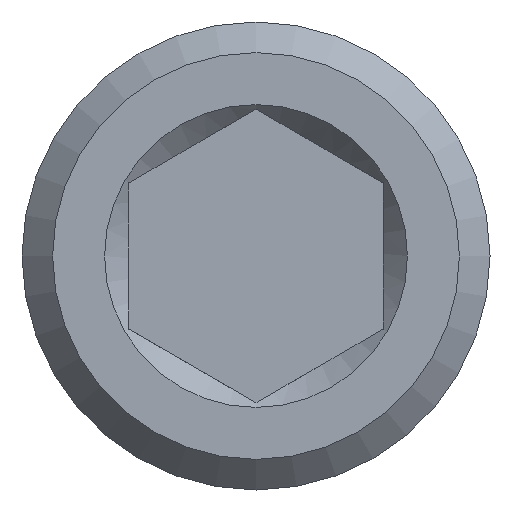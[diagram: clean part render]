
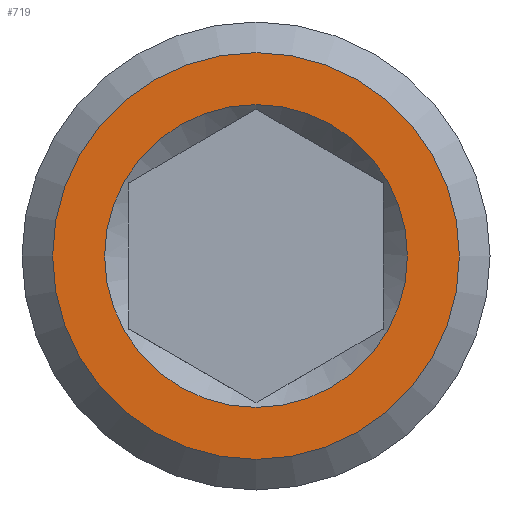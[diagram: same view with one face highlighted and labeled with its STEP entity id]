
A CAD part, front view. The second image highlights one B-rep face of the part: STEP entity #719.
In plain terms, the highlighted planar face has unit normal (0, -1, 0).
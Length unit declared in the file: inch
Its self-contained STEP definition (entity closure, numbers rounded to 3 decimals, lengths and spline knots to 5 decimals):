
#15=FACE_BOUND('',#158,.T.);
#69=CIRCLE('',#797,0.335);
#70=CIRCLE('',#799,0.45);
#114=FACE_OUTER_BOUND('',#157,.T.);
#157=EDGE_LOOP('',(#638));
#158=EDGE_LOOP('',(#639));
#337=VERTEX_POINT('',#1585);
#338=VERTEX_POINT('',#1589);
#439=EDGE_CURVE('',#337,#337,#69,.T.);
#440=EDGE_CURVE('',#338,#338,#70,.T.);
#638=ORIENTED_EDGE('',*,*,#440,.F.);
#639=ORIENTED_EDGE('',*,*,#439,.F.);
#679=PLANE('',#798);
#719=ADVANCED_FACE('',(#114,#15),#679,.T.);
#797=AXIS2_PLACEMENT_3D('',#1587,#973,#974);
#798=AXIS2_PLACEMENT_3D('',#1588,#975,#976);
#799=AXIS2_PLACEMENT_3D('',#1590,#977,#978);
#973=DIRECTION('center_axis',(0.,-1.,0.));
#974=DIRECTION('ref_axis',(0.,0.,1.));
#975=DIRECTION('center_axis',(0.,-1.,0.));
#976=DIRECTION('ref_axis',(0.,0.,-1.));
#977=DIRECTION('center_axis',(0.,1.,0.));
#978=DIRECTION('ref_axis',(0.,0.,1.));
#1585=CARTESIAN_POINT('',(0.,0.,-0.335));
#1587=CARTESIAN_POINT('Origin',(0.,0.,0.));
#1588=CARTESIAN_POINT('Origin',(0.,0.,-0.28));
#1589=CARTESIAN_POINT('',(0.,0.,-0.45));
#1590=CARTESIAN_POINT('Origin',(0.,0.,0.));
